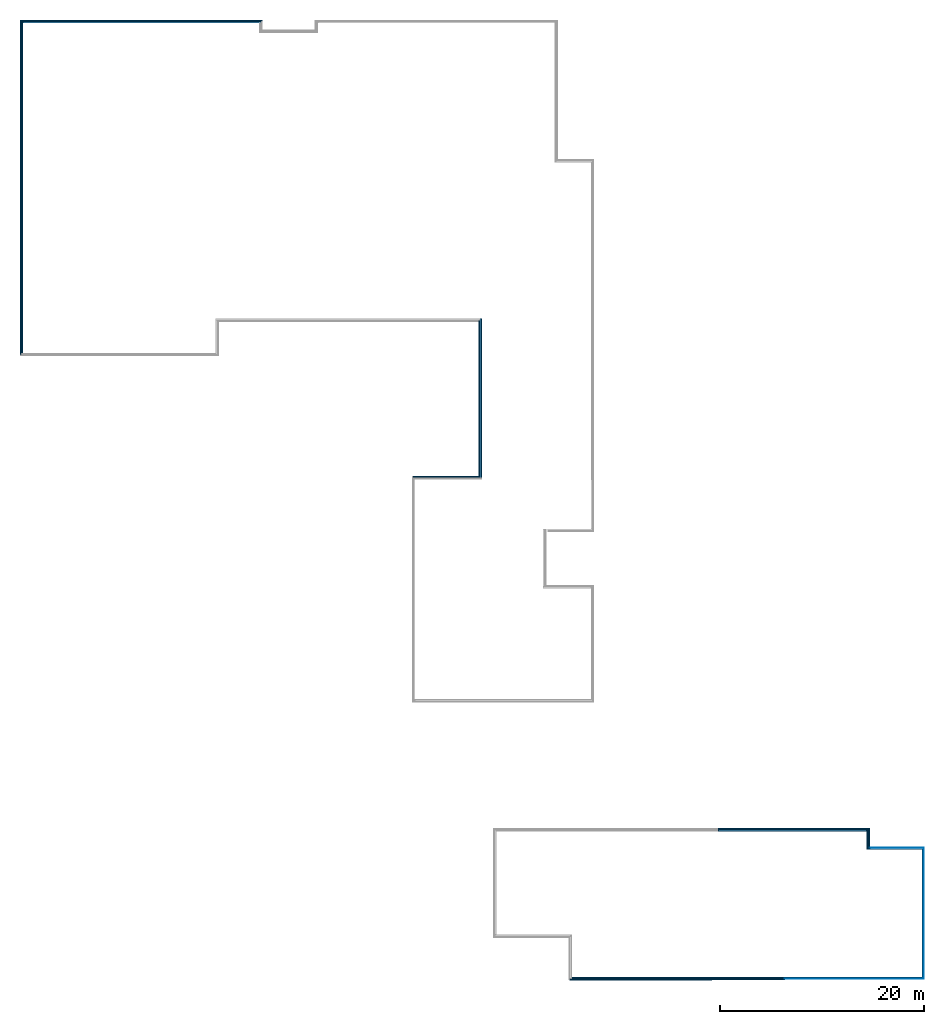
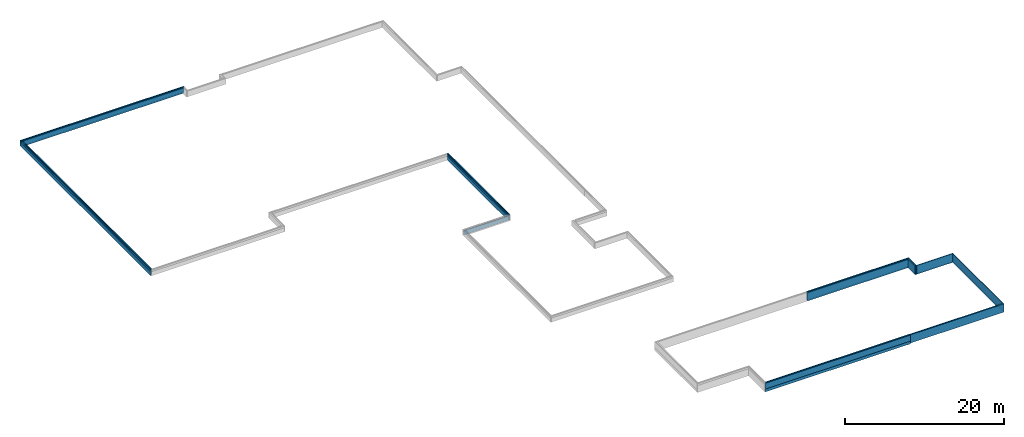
# One storey, part 2 of 3: 25 building element parts, 10 elements without a shape of their own.
"""IFC2X3 building model written with IfcOpenShell, lengths in millimetres."""

import ifcopenshell
import ifcopenshell.guid

model = None  # the IFC model being written
_history = None  # IfcOwnerHistory: only IFC2X3 demands one
_inside = {}  # id of a spatial element -> (the spatial element, [elements in it])
_under = {}  # id of a project, library or spatial element -> (it, [spatial elements below it])
_declared = {}  # id of a project -> (the project, [libraries it declares])
_typed = {}  # id of a type object -> (the type object, [elements of that type])
_made_of = {}  # id of a material, layer set ... -> (it, [elements and type objects made of it])


def new_model(schema):
    """Start an empty IFC model of exactly this schema.

    Asked for "IFC4X3", IfcOpenShell would pick the latest addendum, in which some entities
    have other attributes; the version numbers below select the first issue.
    IFC2X3 requires an IfcOwnerHistory on every rooted entity: one is made here for all.
    """
    global model, _history
    if schema == "IFC4X3":
        model = ifcopenshell.file(schema_version=(4, 3, 0, 0))
    else:
        model = ifcopenshell.file(schema=schema)
    _inside.clear()
    _under.clear()
    _declared.clear()
    _typed.clear()
    _made_of.clear()
    _history = None
    if model.schema == "IFC2X3":
        org = make("IfcOrganization", Name="unknown")
        user = make(
            "IfcPersonAndOrganization",
            ThePerson=make("IfcPerson", FamilyName="unknown"),
            TheOrganization=org,
        )
        app = make(
            "IfcApplication",
            ApplicationDeveloper=org,
            Version="unknown",
            ApplicationFullName="unknown",
            ApplicationIdentifier="unknown",
        )
        _history = make(
            "IfcOwnerHistory",
            OwningUser=user,
            OwningApplication=app,
            ChangeAction="ADDED",
            CreationDate=0,
        )
    return model


def make(cls, **values):
    """One entity of the class cls with the attributes given. An attribute that is None is left unset."""
    return model.create_entity(
        cls, **{name: value for name, value in values.items() if value is not None}
    )


def entity(cls, *values):
    """Any entity or typed value of the class cls, its attributes in the order of the schema. None: left unset."""
    e = model.create_entity(cls)
    for i, value in enumerate(values):
        if value is not None:
            e[i] = value
    return e


def rooted(cls, **values):
    """An entity with a GlobalId (a new one), such as an element, a storey or a relation."""
    return make(cls, GlobalId=ifcopenshell.guid.new(), OwnerHistory=_history, **values)


def si_unit(unit_type, name, prefix=None):
    """IfcSIUnit, for example si_unit("LENGTHUNIT", "METRE", prefix="MILLI")."""
    return make("IfcSIUnit", UnitType=unit_type, Prefix=prefix, Name=name)


def converted_unit(unit_type, name, factor, base, dimensions=None, offset=None):
    """IfcConversionBasedUnit, such as the inch: factor (a typed value) times the base unit."""
    return make(
        "IfcConversionBasedUnit"
        if offset is None
        else "IfcConversionBasedUnitWithOffset",
        ConversionOffset=offset,
        Dimensions=None
        if dimensions is None
        else entity("IfcDimensionalExponents", *dimensions),
        UnitType=unit_type,
        Name=name,
        ConversionFactor=make(
            "IfcMeasureWithUnit", ValueComponent=factor, UnitComponent=base
        ),
    )


def derived_unit(unit_type, elements):
    """IfcDerivedUnit: a product of units, each with its exponent."""
    return make(
        "IfcDerivedUnit",
        Elements=[
            make("IfcDerivedUnitElement", Unit=unit, Exponent=power)
            for unit, power in elements
        ],
        UnitType=unit_type,
    )


def money_unit(currency):
    """IfcMonetaryUnit."""
    return make("IfcMonetaryUnit", Currency=currency)


def assignment(units):
    """IfcUnitAssignment: the units of a project."""
    return None if units is None else make("IfcUnitAssignment", Units=units)


def point(xyz):
    """IfcCartesianPoint."""
    return None if xyz is None else make("IfcCartesianPoint", Coordinates=xyz)


def direction(xyz):
    """IfcDirection."""
    return None if xyz is None else make("IfcDirection", DirectionRatios=xyz)


def frame(location, z_axis=None, x_axis=None):
    """IfcAxis2Placement3D, a coordinate frame: its origin and axes. An axis left out is left unset."""
    return make(
        "IfcAxis2Placement3D",
        Location=point(location),
        Axis=direction(z_axis),
        RefDirection=direction(x_axis),
    )


def origin_with_axes():
    """The frame at (0, 0, 0) with the z axis (0, 0, 1) and the x axis (1, 0, 0) written out."""
    return frame((0.0, 0.0, 0.0), z_axis=(0.0, 0.0, 1.0), x_axis=(1.0, 0.0, 0.0))


def place(relative_to, where):
    """IfcLocalPlacement: puts the frame where relative to a parent placement (None: the world)."""
    return make(
        "IfcLocalPlacement", PlacementRelTo=relative_to, RelativePlacement=where
    )


def context(
    kind, dimensions, precision=None, world=None, true_north=None, identifier=None
):
    """IfcGeometricRepresentationContext, for example the 3D "Model" context."""
    return make(
        "IfcGeometricRepresentationContext",
        ContextIdentifier=identifier,
        ContextType=kind,
        CoordinateSpaceDimension=dimensions,
        Precision=precision,
        WorldCoordinateSystem=world,
        TrueNorth=true_north,
    )


def subcontext(parent, identifier, kind, view, scale=None):
    """IfcGeometricRepresentationSubContext, for example "Body" below "Model"."""
    return make(
        "IfcGeometricRepresentationSubContext",
        ContextIdentifier=identifier,
        ContextType=kind,
        ParentContext=parent,
        TargetScale=scale,
        TargetView=view,
    )


def project(units=None, contexts=None):
    """IfcProject with its units and contexts."""
    return rooted(
        "IfcProject",
        Name="project",
        RepresentationContexts=contexts,
        UnitsInContext=assignment(units),
    )


def spatial(cls, under=None, at=None, **own):
    """A site, building, storey or space (cls), placed at a placement, below another one or the project."""
    s = rooted(cls, ObjectPlacement=at, **own)
    if under is not None:
        _under.setdefault(under.id(), (under, []))[1].append(s)
    return s


def faces_of(points, faces, orient=None, outer=None):
    """IfcFace entities. A face is a list of loops; a loop is a list of indices into points, from 0.

    orient and outer hold one flag for each loop. By default every Orientation is true, the
    first loop of a face is its IfcFaceOuterBound and the others are IfcFaceBound.
    """
    made = []
    for i, loops in enumerate(faces):
        bounds = []
        for j, loop in enumerate(loops):
            is_outer = j == 0 if outer is None else outer[i][j]
            bounds.append(
                make(
                    "IfcFaceOuterBound" if is_outer else "IfcFaceBound",
                    Bound=make("IfcPolyLoop", Polygon=[points[k] for k in loop]),
                    Orientation=True if orient is None else orient[i][j],
                )
            )
        made.append(make("IfcFace", Bounds=bounds))
    return made


def faceted_brep(points, faces, orient=None, outer=None, voids=None):
    """IfcFacetedBrep: a solid bounded by flat faces; with voids (closed shells), ...WithVoids."""
    shared = [point(p) for p in points]
    hull = make("IfcClosedShell", CfsFaces=faces_of(shared, faces, orient, outer))
    if voids is None:
        return make("IfcFacetedBrep", Outer=hull)
    return make(
        "IfcFacetedBrepWithVoids",
        Outer=hull,
        Voids=[
            make(cls, CfsFaces=faces_of(shared, fs, o, b)) for cls, fs, o, b in voids
        ],
    )


def shape(context_of_items, identifier, shape_type, items):
    """IfcShapeRepresentation: the items that make up one representation, for example the "Body"."""
    return make(
        "IfcShapeRepresentation",
        ContextOfItems=context_of_items,
        RepresentationIdentifier=identifier,
        RepresentationType=shape_type,
        Items=items,
    )


def material(Name=None, Category=None):
    """IfcMaterial."""
    return make("IfcMaterial", Name=Name, Category=Category)


def made_of(thing, what):
    """Note that an element or type object is made of a material, layer set ...; save() writes the relation."""
    if what is not None:
        _made_of.setdefault(what.id(), (what, []))[1].append(thing)
    return thing


def type_object(cls, material=None, **own):
    """A type object (cls), such as IfcWallType, which elements share."""
    return made_of(rooted(cls, **own), material)


def element(
    cls,
    number,
    at=None,
    inside=None,
    cuts=None,
    type_object=None,
    material=None,
    context=None,
    identifier="Body",
    shape_type=None,
    held_by="IfcProductDefinitionShape",
    body=None,
    shapes=None,
    **own,
):
    """One element of the class cls, such as IfcWall. Its Tag is "e" and its number.

    at: its placement. inside: the storey or other place that contains it. cuts: it is an
    opening in that element (IfcRelVoidsElement). A single representation is given by context,
    identifier, shape_type and body (its items); several are given by shapes. held_by: the class
    of the entity that holds the representations. save() writes the other relations.
    """
    e = rooted(cls, Tag="e%d" % number, ObjectPlacement=at, **own)
    if body is not None:
        shapes = [shape(context, identifier, shape_type, body)]
    if shapes is not None:
        e.Representation = make(held_by, Representations=shapes)
    if inside is not None:
        _inside.setdefault(inside.id(), (inside, []))[1].append(e)
    if cuts is not None:
        rooted(
            "IfcRelVoidsElement", RelatingBuildingElement=cuts, RelatedOpeningElement=e
        )
    if type_object is not None:
        _typed.setdefault(type_object.id(), (type_object, []))[1].append(e)
    return made_of(e, material)


def aggregate(whole, parts):
    """IfcRelAggregates: a whole, such as a stair, and the parts it consists of."""
    return rooted("IfcRelAggregates", RelatingObject=whole, RelatedObjects=parts)


def save(model, path):
    """Write the relations noted so far, then the file.

    IfcRelAggregates (storeys below a building ...), IfcRelContainedInSpatialStructure (elements
    in a storey), IfcRelDefinesByType, IfcRelAssociatesMaterial and IfcRelDeclares: one each for
    every whole, place, type object, material and project.
    """
    for whole, parts in _under.values():
        aggregate(whole, parts)
    for where, things in _inside.values():
        rooted(
            "IfcRelContainedInSpatialStructure",
            RelatedElements=things,
            RelatingStructure=where,
        )
    for kind, things in _typed.values():
        rooted("IfcRelDefinesByType", RelatedObjects=things, RelatingType=kind)
    for what, things in _made_of.values():
        rooted("IfcRelAssociatesMaterial", RelatedObjects=things, RelatingMaterial=what)
    for by, libraries in _declared.values():
        rooted("IfcRelDeclares", RelatingContext=by, RelatedDefinitions=libraries)
    model.write(path)


model = new_model("IFC2X3")

# Units and contexts
model_context = context("Model", 3, precision=0.01, world=origin_with_axes(), true_north=direction((0.0, 1.0)))
plan_context = context("Plan", 3, precision=0.01, world=origin_with_axes(), true_north=direction((0.0, 1.0)))
body_context = subcontext(model_context, "Body", "Model", "MODEL_VIEW")
ifc_project = project(units=[si_unit("LENGTHUNIT", "METRE", prefix="MILLI"), si_unit("AREAUNIT", "SQUARE_METRE"), si_unit("VOLUMEUNIT", "CUBIC_METRE"), converted_unit("PLANEANGLEUNIT", "DEGREE", entity("IfcPlaneAngleMeasure", 0.0174532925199), si_unit("PLANEANGLEUNIT", "RADIAN"), dimensions=[0, 0, 0, 0, 0, 0, 0]), money_unit("EUR"), converted_unit("TIMEUNIT", "Year", entity("IfcTimeMeasure", 31556926.0), si_unit("TIMEUNIT", "SECOND"), dimensions=[0, 0, 1, 0, 0, 0, 0]), si_unit("MASSUNIT", "GRAM", prefix="KILO"), si_unit("THERMODYNAMICTEMPERATUREUNIT", "DEGREE_CELSIUS"), si_unit("LUMINOUSINTENSITYUNIT", "LUMEN"), si_unit("ENERGYUNIT", "JOULE", prefix="MEGA"), derived_unit("THERMALCONDUCTANCEUNIT", [(si_unit("POWERUNIT", "WATT"), 1), (si_unit("LENGTHUNIT", "METRE"), -1), (si_unit("THERMODYNAMICTEMPERATUREUNIT", "KELVIN"), -1)]), derived_unit("SPECIFICHEATCAPACITYUNIT", [(si_unit("ENERGYUNIT", "JOULE"), 1), (si_unit("MASSUNIT", "GRAM", prefix="KILO"), -1), (si_unit("THERMODYNAMICTEMPERATUREUNIT", "KELVIN"), -1)]), derived_unit("MASSDENSITYUNIT", [(si_unit("MASSUNIT", "GRAM", prefix="KILO"), 1), (si_unit("VOLUMEUNIT", "CUBIC_METRE"), -1)])], contexts=[model_context, plan_context])

# Site, building, storey
site_placement = place(None, origin_with_axes())
site = spatial("IfcSite", under=ifc_project, at=site_placement, Name="Site", CompositionType="ELEMENT")
building_placement = place(site_placement, origin_with_axes())
building = spatial("IfcBuilding", under=site, at=building_placement, Name="Naam gebouw", CompositionType="ELEMENT")
storey_placement = place(building_placement, frame((0.0, 0.0, -1540.0), z_axis=(0.0, 0.0, 1.0), x_axis=(1.0, 0.0, 0.0)))
storey = spatial("IfcBuildingStorey", under=building, at=storey_placement, Name="Fundering", CompositionType="ELEMENT", Elevation=-1540.0)

# Wall, building element parts
wall_type_1 = type_object("IfcWallType", Name="21 Isolatie onder mv & waterkering 145", PredefinedType="ELEMENTEDWALL")
wall_1_placement = place(storey_placement, frame((91086.0166564, -58104.0000761, 1040.0), z_axis=(0.0, 0.0, 1.0), x_axis=(0.0, 1.0, 0.0)))
wall_1 = element("IfcWall", 1, at=wall_1_placement, inside=storey, type_object=wall_type_1, Name="Buitenwand ondermaaiveld")
ifc_material_1 = material(Name="Isolatie - Kunststof hard")
building_element_part_1_placement = place(wall_1_placement, origin_with_axes())
building_element_part_1 = element("IfcBuildingElementPart", 2, at=building_element_part_1_placement, material=ifc_material_1, Name="Isolatie - Kunststof hard", context=body_context, shape_type="Brep", body=[
    faceted_brep([(12639.9999918, 0.0, 1270.00001593), (12639.9999918, -140.0, 1270.00001593), (12639.9999918, -140.0, 0.0), (12639.9999918, 0.0, 0.0), (-0.000215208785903, -140.0, 1270.00001593), (12585.9936023, 0.0, 1270.00001593), (12585.9934933, -87.9826551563, 1270.00001593), (-0.000215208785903, -87.9826354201, 1270.00001593), (-0.000215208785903, -140.0, 0.0), (-0.000215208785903, 0.0, 0.0), (-0.000215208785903, 0.0, 1320.0), (12585.9936023, 0.0, 1320.0), (12585.9934933, -87.9826551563, 1320.0), (-0.000215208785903, -87.9826354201, 1320.0)], [[[0, 1, 2, 3]], [[4, 1, 0, 5, 6, 7]], [[1, 4, 8, 2]], [[3, 2, 8, 9]], [[5, 0, 3, 9, 10, 11]], [[11, 12, 6, 5]], [[12, 13, 7, 6]], [[7, 13, 10, 9, 8, 4]], [[12, 11, 10, 13]]]),
])
ifc_material_2 = material(Name="Membraan - waterdicht")
building_element_part_2_placement = place(wall_1_placement, origin_with_axes())
building_element_part_2 = element("IfcBuildingElementPart", 3, at=building_element_part_2_placement, material=ifc_material_2, Name="Membraan - waterdicht", context=body_context, shape_type="Brep", body=[
    faceted_brep([(12644.9999918, -140.0, 1270.00001593), (12644.9999918, -145.0, 1270.00001593), (12644.9999918, -145.0, 0.0), (12644.9999918, -140.0, 0.0), (-140.000215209, -145.0, 1270.00001593), (-140.000215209, -140.0, 1270.00001593), (-140.000215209, -145.0, 0.0), (-140.000215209, -140.0, 0.0)], [[[0, 1, 2, 3]], [[4, 1, 0, 5]], [[1, 4, 6, 2]], [[3, 2, 6, 7]], [[5, 0, 3, 7]], [[4, 5, 7, 6]]]),
])
aggregate(wall_1, [building_element_part_1, building_element_part_2])

wall_2_placement = place(storey_placement, frame((85636.0166564, -45604.0000843, 1040.0), z_axis=(0.0, 0.0, 1.0), x_axis=(1.0, 0.0, 0.0)))
wall_2 = element("IfcWall", 4, at=wall_2_placement, inside=storey, type_object=wall_type_1, Name="Buitenwand ondermaaiveld")
building_element_part_3_placement = place(wall_2_placement, origin_with_axes())
building_element_part_3 = element("IfcBuildingElementPart", 5, at=building_element_part_3_placement, material=ifc_material_2, Name="Membraan - waterdicht", context=body_context, shape_type="Brep", body=[
    faceted_brep([(286.0, 145.0, 1080.0), (286.0, 145.0, 1320.0), (5590.0, 145.0, 1320.0), (5590.0, 145.0, 0.0), (286.0, 145.0, 0.0), (286.0, 140.0, 1320.0), (286.0, 140.0, 1080.0), (5590.0, 140.0, 1320.0), (5590.0, 140.0, 0.0), (286.0, 140.0, 0.0)], [[[0, 1, 2, 3, 4]], [[5, 1, 0, 6]], [[1, 5, 7, 2]], [[3, 2, 7, 8]], [[9, 4, 3, 8]], [[6, 0, 4, 9]], [[5, 6, 9, 8, 7]]]),
])
building_element_part_4_placement = place(wall_2_placement, origin_with_axes())
building_element_part_4 = element("IfcBuildingElementPart", 6, at=building_element_part_4_placement, material=ifc_material_1, Name="Isolatie - Kunststof hard", context=body_context, shape_type="Brep", body=[
    faceted_brep([(286.0, 140.0, 1080.0), (286.0, 140.0, 1320.0), (5450.0, 140.0, 1320.0), (5450.0, 140.0, 0.0), (286.0, 140.0, 0.0), (286.0, 0.0, 1320.0), (286.0, 0.0, 1080.0), (5450.0, 0.0, 1320.0), (5450.0, 0.0, 0.0), (286.0, 0.0, 0.0)], [[[0, 1, 2, 3, 4]], [[5, 1, 0, 6]], [[1, 5, 7, 2]], [[3, 2, 7, 8]], [[9, 4, 3, 8]], [[6, 0, 4, 9]], [[5, 6, 9, 8, 7]]]),
])
aggregate(wall_2, [building_element_part_3, building_element_part_4])

wall_type_2 = type_object("IfcWallType", Name="21 buitenwand onder maaiveld & isolatie 286 x 1330", PredefinedType="ELEMENTEDWALL")
wall_3_placement = place(storey_placement, frame((85636.0166564, -45604.0000843, 2370.0), z_axis=(0.0, 0.0, 1.0), x_axis=(0.0, 1.0, 0.0)))
wall_3 = element("IfcWall", 7, at=wall_3_placement, inside=storey, type_object=wall_type_2, Name="Buitenwand ondermaaiveld")
building_element_part_5_placement = place(wall_3_placement, origin_with_axes())
building_element_part_5 = element("IfcBuildingElementPart", 8, at=building_element_part_5_placement, material=ifc_material_1, Name="Isolatie - Kunststof hard", context=body_context, shape_type="Brep", body=[
    faceted_brep([(1940.00000176, -140.0, -1330.0), (1940.00000176, -140.0, 0.0), (8.30684854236e-06, -140.0, -4.84945417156e-10), (0.0, -140.0, -10.0000000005), (0.0, -140.0, -1330.0), (1940.00000176, 0.0, -1330.0), (1940.00000176, 0.0, 0.0), (8.30684854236e-06, 0.0, -4.84945417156e-10), (0.0, 0.0, -10.0000000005), (0.0, 0.0, -1330.0)], [[[0, 1, 2, 3, 4]], [[5, 6, 1, 0]], [[2, 1, 6, 7]], [[2, 7, 8, 3]], [[8, 9, 4, 3]], [[9, 5, 0, 4]], [[7, 6, 5, 9, 8]]]),
])
ifc_material_3 = material(Name="Steen - Baksteen AFW")
building_element_part_6_placement = place(wall_3_placement, origin_with_axes())
building_element_part_6 = element("IfcBuildingElementPart", 9, at=building_element_part_6_placement, material=ifc_material_3, Name="Steen - Baksteen AFW", context=body_context, shape_type="Brep", body=[
    faceted_brep([(2086.00001905, -186.0, -59.9999840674), (2086.00001905, -286.0, -59.9999840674), (2086.00001905, -286.0, -249.999998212), (2086.00001905, -186.0, -249.999998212), (2085.98251259, -286.002204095, -59.9999840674), (2085.98263648, -186.0, -59.9999840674), (2085.98251259, -286.002204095, 0.0), (8.30684854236e-06, -286.0, -4.84945417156e-10), (0.0, -286.0, -10.0000000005), (0.0, -286.0, -250.0), (0.0, -186.0, -250.0), (0.0, -186.0, -10.0000000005), (8.30684854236e-06, -186.0, -4.84945417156e-10), (2085.98263648, -186.0, 0.0)], [[[0, 1, 2, 3]], [[4, 1, 0, 5]], [[4, 6, 7, 8, 9, 2, 1]], [[10, 3, 2, 9]], [[5, 0, 3, 10, 11, 12, 13]], [[13, 6, 4, 5]], [[6, 13, 12, 7]], [[12, 11, 8, 7]], [[10, 9, 8, 11]]]),
])
ifc_material_4 = material(Name="Steen - Betonblok vuilwerk")
building_element_part_7_placement = place(wall_3_placement, origin_with_axes())
building_element_part_7 = element("IfcBuildingElementPart", 10, at=building_element_part_7_placement, material=ifc_material_4, Name="Steen - Betonblok vuilwerk", context=body_context, shape_type="Brep", body=[
    faceted_brep([(2086.00001905, -286.0, -1330.0), (2086.00001905, -286.0, -249.999998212), (0.0, -286.0, -249.999998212), (0.0, -286.0, -1330.0), (2086.00001905, -186.000008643, -1330.0), (2086.00001905, -186.000008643, -249.999998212), (0.0, -186.000008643, -249.999998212), (0.0, -186.000008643, -1330.0)], [[[0, 1, 2, 3]], [[1, 0, 4, 5]], [[1, 5, 6, 2]], [[3, 2, 6, 7]], [[4, 0, 3, 7]], [[5, 4, 7, 6]]]),
])
aggregate(wall_3, [building_element_part_5, building_element_part_6, building_element_part_7])

wall_type_3 = type_object("IfcWallType", Name="21 buitenwand onder+boven maaiveld & isolatie 286 x 1330", PredefinedType="ELEMENTEDWALL")
wall_4_placement = place(storey_placement, frame((77586.0166564, -58104.0000761, 2370.0), z_axis=(0.0, 0.0, 1.0), x_axis=(-1.0, 0.0, 0.0)))
wall_4 = element("IfcWall", 11, at=wall_4_placement, inside=storey, type_object=wall_type_3, Name="Buitenwand ondermaaiveld")
building_element_part_8_placement = place(wall_4_placement, origin_with_axes())
building_element_part_8 = element("IfcBuildingElementPart", 12, at=building_element_part_8_placement, material=ifc_material_3, Name="Steen - Baksteen AFW", context=body_context, shape_type="Brep", body=[
    faceted_brep([(21036.0000086, 186.0, -900.0), (21036.0, 186.0, 0.0), (0.0, 186.0, 0.0), (0.0, 186.0, -900.0), (21036.0000086, 286.0, -900.0), (21036.0, 286.0, 0.0), (0.0, 286.0, 0.0), (0.0, 286.0, -900.0)], [[[0, 1, 2, 3]], [[4, 5, 1, 0]], [[2, 1, 5, 6]], [[3, 2, 6, 7]], [[7, 4, 0, 3]], [[6, 5, 4, 7]]]),
])
building_element_part_9_placement = place(wall_4_placement, origin_with_axes())
building_element_part_9 = element("IfcBuildingElementPart", 13, at=building_element_part_9_placement, material=ifc_material_4, Name="Steen - Betonblok vuilwerk", context=body_context, shape_type="Brep", body=[
    faceted_brep([(21036.0000086, 185.999995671, -1330.0), (21036.0000086, 185.999995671, -900.0), (0.0, 185.999995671, -899.999999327), (0.0, 185.999995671, -1330.00017253), (21036.0000086, 286.0, -900.0), (21036.0000086, 286.0, -1330.0), (0.0, 286.0, -899.999999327), (0.0, 286.0, -1330.00017253)], [[[0, 1, 2, 3]], [[4, 1, 0, 5]], [[1, 4, 6, 2]], [[7, 3, 2, 6]], [[5, 0, 3, 7]], [[4, 5, 7, 6]]]),
])
building_element_part_10_placement = place(wall_4_placement, origin_with_axes())
building_element_part_10 = element("IfcBuildingElementPart", 14, at=building_element_part_10_placement, material=ifc_material_1, Name="Isolatie - Kunststof hard", context=body_context, shape_type="Brep", body=[
    faceted_brep([(20850.0, 0.0, 0.0), (0.0, 0.0, 0.0), (0.0, 0.0, -1330.00017253), (20850.0, 0.0, -1330.0), (20850.0, 140.0, 0.0), (0.0, 140.0, 0.0), (0.0, 140.0, -1330.00017253), (20850.0, 140.0, -1330.0)], [[[0, 1, 2, 3]], [[1, 0, 4, 5]], [[2, 1, 5, 6]], [[6, 7, 3, 2]], [[7, 4, 0, 3]], [[5, 4, 7, 6]]]),
])
aggregate(wall_4, [building_element_part_8, building_element_part_9, building_element_part_10])

wall_5_placement = place(storey_placement, frame((91086.0166564, -58104.0002913, 1040.0), z_axis=(0.0, 0.0, 1.0), x_axis=(-1.0, 0.0, 0.0)))
wall_5 = element("IfcWall", 15, at=wall_5_placement, inside=storey, type_object=wall_type_1, Name="Buitenwand ondermaaiveld")
building_element_part_11_placement = place(wall_5_placement, origin_with_axes())
building_element_part_11 = element("IfcBuildingElementPart", 16, at=building_element_part_11_placement, material=ifc_material_2, Name="Membraan - waterdicht", context=body_context, shape_type="Brep", body=[
    faceted_brep([(13499.9999982, 140.0, 1270.00001593), (-145.0, 140.0, 1270.00001593), (-145.0, 140.0, 0.0), (13500.0, 140.0, 0.0), (-145.0, 145.0, 1270.00001593), (13499.9999982, 145.0, 1270.00001593), (-145.0, 145.0, 0.0), (13500.0, 145.0, 0.0)], [[[0, 1, 2, 3]], [[4, 1, 0, 5]], [[1, 4, 6, 2]], [[6, 7, 3, 2]], [[5, 0, 3, 7]], [[4, 5, 7, 6]]]),
])
building_element_part_12_placement = place(wall_5_placement, origin_with_axes())
building_element_part_12 = element("IfcBuildingElementPart", 17, at=building_element_part_12_placement, material=ifc_material_1, Name="Isolatie - Kunststof hard", context=body_context, shape_type="Brep", body=[
    faceted_brep([(-87.9826354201, 0.0, 1320.0), (-87.9826354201, 0.0, 1270.00001593), (-140.0, 0.0, 1270.00001593), (-140.0, 0.0, 0.0), (13500.0, 0.0, 0.0), (13500.0, 0.0, 1320.0), (-87.9826352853, 85.9997785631, 1320.0), (-87.9826352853, 85.9997785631, 1270.00001593), (-140.0, 140.0, 1270.00001593), (13499.9999982, 85.9997848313, 1270.00001593), (13499.9999982, 140.0, 1270.00001593), (-140.0, 140.0, 0.0), (13500.0, 140.0, 0.0), (13499.9999982, 85.9997848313, 1320.0)], [[[0, 1, 2, 3, 4, 5]], [[1, 0, 6, 7]], [[8, 2, 1, 7, 9, 10]], [[2, 8, 11, 3]], [[11, 12, 4, 3]], [[9, 13, 5, 4, 12, 10]], [[6, 0, 5, 13]], [[6, 13, 9, 7]], [[8, 10, 12, 11]]]),
])
aggregate(wall_5, [building_element_part_11, building_element_part_12])

# Wall, building element part
wall_type_4 = type_object("IfcWallType", Name="21 buitenwand onder maaiveld & isolatie 286 x 870", PredefinedType="ELEMENTEDWALL")
wall_6_placement = place(storey_placement, frame((47920.0380848, -9530.00357196, 1470.0), z_axis=(0.0, 0.0, 1.0), x_axis=(-1.0, 0.0, 0.0)))
wall_6 = element("IfcWall", 18, at=wall_6_placement, inside=storey, type_object=wall_type_4, Name="Buitenwand ondermaaiveld")
building_element_part_13_placement = place(wall_6_placement, origin_with_axes())
building_element_part_13 = element("IfcBuildingElementPart", 19, at=building_element_part_13_placement, material=ifc_material_4, Name="Steen - Betonblok vuilwerk", context=body_context, shape_type="Brep", body=[
    faceted_brep([(186.000001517, -365.000001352, -250.000002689), (186.000001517, -465.0, -250.000002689), (6715.02142971, -465.0, -250.000003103), (6715.02142971, -365.000001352, -250.000003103), (186.000001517, -465.0, -870.000006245), (186.000001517, -365.000001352, -870.000006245), (6715.02142971, -465.0, -870.000007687), (6715.02142971, -365.000001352, -870.000007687)], [[[0, 1, 2, 3]], [[4, 1, 0, 5]], [[1, 4, 6, 2]], [[3, 2, 6, 7]], [[5, 0, 3, 7]], [[4, 5, 7, 6]]]),
])
aggregate(wall_6, [building_element_part_13])

# Wall, building element parts
wall_7_placement = place(storey_placement, frame((47920.0380848, -9530.00357196, 1470.0), z_axis=(0.0, 0.0, 1.0), x_axis=(0.0, 1.0, 0.0)))
wall_7 = element("IfcWall", 20, at=wall_7_placement, inside=storey, type_object=wall_type_4, Name="Buitenwand ondermaaiveld")
building_element_part_14_placement = place(wall_7_placement, origin_with_axes())
building_element_part_14 = element("IfcBuildingElementPart", 21, at=building_element_part_14_placement, material=ifc_material_4, Name="Steen - Betonblok vuilwerk", context=body_context, shape_type="Brep", body=[
    faceted_brep([(15713.9999985, 186.000001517, -870.000006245), (15713.9999985, 186.000001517, -250.000002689), (465.0, 186.000001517, -250.000003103), (465.0, 186.000001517, -870.000007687), (15713.9999985, 286.0, -250.000002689), (15713.9999985, 286.0, -870.000006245), (465.0, 286.0, -250.000003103), (465.0, 286.0, -870.000007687)], [[[0, 1, 2, 3]], [[4, 1, 0, 5]], [[1, 4, 6, 2]], [[3, 2, 6, 7]], [[5, 0, 3, 7]], [[4, 5, 7, 6]]]),
])
building_element_part_15_placement = place(wall_7_placement, origin_with_axes())
building_element_part_15 = element("IfcBuildingElementPart", 22, at=building_element_part_15_placement, material=ifc_material_3, Name="Steen - Baksteen AFW", context=body_context, shape_type="Brep", body=[
    faceted_brep([(15713.9999985, 186.0, -250.000002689), (15713.9999985, 186.0, 0.0), (465.0, 186.0, 0.0), (465.0, 186.0, -250.0), (15713.9999985, 286.0, 0.0), (15713.9999985, 286.0, -250.000002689), (465.0, 286.0, 0.0), (465.0, 286.0, -250.0)], [[[0, 1, 2, 3]], [[4, 1, 0, 5]], [[1, 4, 6, 2]], [[3, 2, 6, 7]], [[5, 0, 3, 7]], [[4, 5, 7, 6]]]),
])
building_element_part_16_placement = place(wall_7_placement, origin_with_axes())
building_element_part_16 = element("IfcBuildingElementPart", 23, at=building_element_part_16_placement, material=ifc_material_1, Name="Isolatie - Kunststof hard", context=body_context, shape_type="Brep", body=[
    faceted_brep([(319.0, 140.0, 0.0), (319.0, 0.0, 0.0), (15899.9999985, 0.0, 0.0), (15899.9999985, 140.0, 0.0), (319.0, 0.0, -250.000003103), (319.0, 140.0, -250.000003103), (319.0, 0.0, -870.000007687), (15899.9999985, 0.0, -870.000006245), (15899.9999985, 140.0, -870.000006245), (319.0, 140.0, -870.000007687)], [[[0, 1, 2, 3]], [[4, 1, 0, 5]], [[1, 4, 6, 7, 2]], [[8, 3, 2, 7]], [[5, 0, 3, 8, 9]], [[4, 5, 9, 6]], [[6, 9, 8, 7]]]),
])
aggregate(wall_7, [building_element_part_14, building_element_part_15, building_element_part_16])

wall_8_placement = place(storey_placement, frame((3000.0, 3000.0, 1470.0), z_axis=(0.0, 0.0, 1.0), x_axis=(0.0, 1.0, 0.0)))
wall_8 = element("IfcWall", 24, at=wall_8_placement, inside=storey, type_object=wall_type_4, Name="Buitenwand ondermaaiveld")
building_element_part_17_placement = place(wall_8_placement, origin_with_axes())
building_element_part_17 = element("IfcBuildingElementPart", 25, at=building_element_part_17_placement, material=ifc_material_4, Name="Steen - Betonblok vuilwerk", context=body_context, shape_type="Brep", body=[
    faceted_brep([(-186.000001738, 286.0, -250.000002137), (-186.000001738, 186.000001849, -250.000002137), (32615.9930829, 186.000001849, -250.000002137), (32615.9930829, 286.0, -250.000002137), (-186.000001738, 186.000001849, -870.000004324), (-186.000001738, 286.0, -870.000004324), (32615.9930829, 186.000001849, -870.000004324), (32615.9930829, 286.0, -870.000004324)], [[[0, 1, 2, 3]], [[4, 1, 0, 5]], [[1, 4, 6, 2]], [[3, 2, 6, 7]], [[5, 0, 3, 7]], [[4, 5, 7, 6]]]),
])
building_element_part_18_placement = place(wall_8_placement, origin_with_axes())
building_element_part_18 = element("IfcBuildingElementPart", 26, at=building_element_part_18_placement, material=ifc_material_3, Name="Steen - Baksteen AFW", context=body_context, shape_type="Brep", body=[
    faceted_brep([(-186.0, 286.0, 0.0), (-186.0, 186.0, 0.0), (32615.9930829, 186.0, 0.0), (32615.9930829, 286.0, 0.0), (-186.0, 186.0, -250.0), (-186.0, 286.0, -250.0), (32615.9930829, 186.0, -250.000002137), (32615.9930829, 286.0, -250.000002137)], [[[0, 1, 2, 3]], [[4, 1, 0, 5]], [[1, 4, 6, 2]], [[7, 3, 2, 6]], [[5, 0, 3, 7]], [[4, 5, 7, 6]]]),
])
building_element_part_19_placement = place(wall_8_placement, origin_with_axes())
building_element_part_19 = element("IfcBuildingElementPart", 27, at=building_element_part_19_placement, material=ifc_material_1, Name="Isolatie - Kunststof hard", context=body_context, shape_type="Brep", body=[
    faceted_brep([(32469.9930835, 0.0, -250.000002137), (32469.9930835, 0.0, 0.0), (0.0, 0.0, 0.0), (0.0, 0.0, -250.000002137), (0.0, 0.0, -870.000004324), (32469.9930835, 0.0, -870.000004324), (32469.9930835, 140.0, 0.0), (32469.9930835, 140.0, -250.000002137), (0.0, 140.0, 0.0), (0.0, 140.0, -250.000002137), (0.0, 140.0, -870.000004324), (32469.9930835, 140.0, -870.000004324)], [[[0, 1, 2, 3, 4, 5]], [[6, 1, 0, 7]], [[1, 6, 8, 2]], [[3, 2, 8, 9]], [[3, 9, 10, 4]], [[11, 5, 4, 10]], [[7, 0, 5, 11]], [[6, 7, 11, 10, 9, 8]]]),
])
aggregate(wall_8, [building_element_part_17, building_element_part_18, building_element_part_19])

wall_9_placement = place(storey_placement, frame((3000.0, 35329.9930771, 1470.0), z_axis=(0.0, 0.0, 1.0), x_axis=(1.0, 0.0, 0.0)))
wall_9 = element("IfcWall", 28, at=wall_9_placement, inside=storey, type_object=wall_type_4, Name="Buitenwand ondermaaiveld")
building_element_part_20_placement = place(wall_9_placement, origin_with_axes())
building_element_part_20 = element("IfcBuildingElementPart", 29, at=building_element_part_20_placement, material=ifc_material_4, Name="Steen - Betonblok vuilwerk", context=body_context, shape_type="Brep", body=[
    faceted_brep([(-186.000001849, 286.0, -870.000003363), (-186.000001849, 286.0, -250.00000186), (23451.9827605, 286.0, -250.000002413), (23451.9827605, 286.0, -870.000005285), (-186.000001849, 186.000001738, -250.00000186), (-186.000001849, 186.000001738, -870.000003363), (23451.9827605, 186.000001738, -250.000002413), (23451.9827605, 186.000001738, -870.000005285)], [[[0, 1, 2, 3]], [[4, 1, 0, 5]], [[1, 4, 6, 2]], [[7, 3, 2, 6]], [[5, 0, 3, 7]], [[4, 5, 7, 6]]]),
])
building_element_part_21_placement = place(wall_9_placement, origin_with_axes())
building_element_part_21 = element("IfcBuildingElementPart", 30, at=building_element_part_21_placement, material=ifc_material_3, Name="Steen - Baksteen AFW", context=body_context, shape_type="Brep", body=[
    faceted_brep([(-186.0, 286.0, -250.0), (-186.0, 286.0, 0.0), (23451.9827605, 286.0, 0.0), (23451.9827605, 286.0, -250.000002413), (-186.0, 186.0, 0.0), (-186.0, 186.0, -250.0), (23451.9827605, 186.0, 0.0), (23451.9827605, 186.0, -250.000002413)], [[[0, 1, 2, 3]], [[4, 1, 0, 5]], [[1, 4, 6, 2]], [[7, 3, 2, 6]], [[5, 0, 3, 7]], [[4, 5, 7, 6]]]),
])
building_element_part_22_placement = place(wall_9_placement, origin_with_axes())
building_element_part_22 = element("IfcBuildingElementPart", 31, at=building_element_part_22_placement, material=ifc_material_1, Name="Isolatie - Kunststof hard", context=body_context, shape_type="Brep", body=[
    faceted_brep([(23305.9827607, 0.0, 0.0), (23305.9827607, 140.0, 0.0), (0.0, 140.0, 0.0), (0.0, 0.0, 0.0), (23305.9827607, 140.0, -250.000002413), (23305.9827607, 0.0, -250.000002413), (23305.9827607, 140.0, -870.000005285), (0.0, 140.0, -870.000003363), (0.0, 140.0, -250.00000186), (0.0, 0.0, -250.00000186), (0.0, 0.0, -870.000003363), (23305.9827607, 0.0, -870.000005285)], [[[0, 1, 2, 3]], [[4, 1, 0, 5]], [[1, 4, 6, 7, 8, 2]], [[3, 2, 8, 9]], [[5, 0, 3, 9, 10, 11]], [[4, 5, 11, 6]], [[6, 11, 10, 7]], [[9, 8, 7, 10]]]),
])
aggregate(wall_9, [building_element_part_20, building_element_part_21, building_element_part_22])

wall_10_placement = place(storey_placement, frame((71105.9973815, -43804.0000761, 2370.0), z_axis=(0.0, 0.0, 1.0), x_axis=(1.0, 0.0, 0.0)))
wall_10 = element("IfcWall", 32, at=wall_10_placement, inside=storey, type_object=wall_type_2, Name="Buitenwand ondermaaiveld")
building_element_part_23_placement = place(wall_10_placement, origin_with_axes())
building_element_part_23 = element("IfcBuildingElementPart", 33, at=building_element_part_23_placement, material=ifc_material_4, Name="Steen - Betonblok vuilwerk", context=body_context, shape_type="Brep", body=[
    faceted_brep([(14716.0192835, 186.000008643, -249.999998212), (14716.0192835, 286.0, -249.999998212), (0.0, 286.0, -249.999998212), (0.0, 186.000008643, -249.999998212), (14716.0192835, 286.0, -1330.0), (14716.0192835, 186.000008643, -1330.0), (0.0, 286.0, -1330.0), (0.0, 186.000008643, -1330.0)], [[[0, 1, 2, 3]], [[4, 1, 0, 5]], [[1, 4, 6, 2]], [[6, 7, 3, 2]], [[5, 0, 3, 7]], [[4, 5, 7, 6]]]),
])
building_element_part_24_placement = place(wall_10_placement, origin_with_axes())
building_element_part_24 = element("IfcBuildingElementPart", 34, at=building_element_part_24_placement, material=ifc_material_3, Name="Steen - Baksteen AFW", context=body_context, shape_type="Brep", body=[
    faceted_brep([(0.0, 286.0, 0.0), (0.0, 186.0, 0.0), (14716.0192749, 186.0, 0.0), (14716.0192749, 286.0, 0.0), (0.0, 286.0, -250.0), (0.0, 186.0, -250.0), (14716.0192749, 186.0, -250.0), (14716.0192749, 286.0, -250.0)], [[[0, 1, 2, 3]], [[4, 5, 1, 0]], [[1, 5, 6, 2]], [[2, 6, 7, 3]], [[4, 0, 3, 7]], [[5, 4, 7, 6]]]),
])
building_element_part_25_placement = place(wall_10_placement, origin_with_axes())
building_element_part_25 = element("IfcBuildingElementPart", 35, at=building_element_part_25_placement, material=ifc_material_1, Name="Isolatie - Kunststof hard", context=body_context, shape_type="Brep", body=[
    faceted_brep([(0.0, 0.0, 0.0), (14530.0192749, 0.0, 0.0), (14530.0192749, 140.0, 0.0), (0.0, 140.0, 0.0), (14530.0192749, 0.0, -1330.0), (0.0, 0.0, -1330.0), (14530.0192749, 140.0, -1330.0), (0.0, 140.0, -1330.0)], [[[0, 1, 2, 3]], [[4, 1, 0, 5]], [[6, 2, 1, 4]], [[3, 2, 6, 7]], [[5, 0, 3, 7]], [[7, 6, 4, 5]]]),
])
aggregate(wall_10, [building_element_part_23, building_element_part_24, building_element_part_25])

save(model, "model.ifc")
